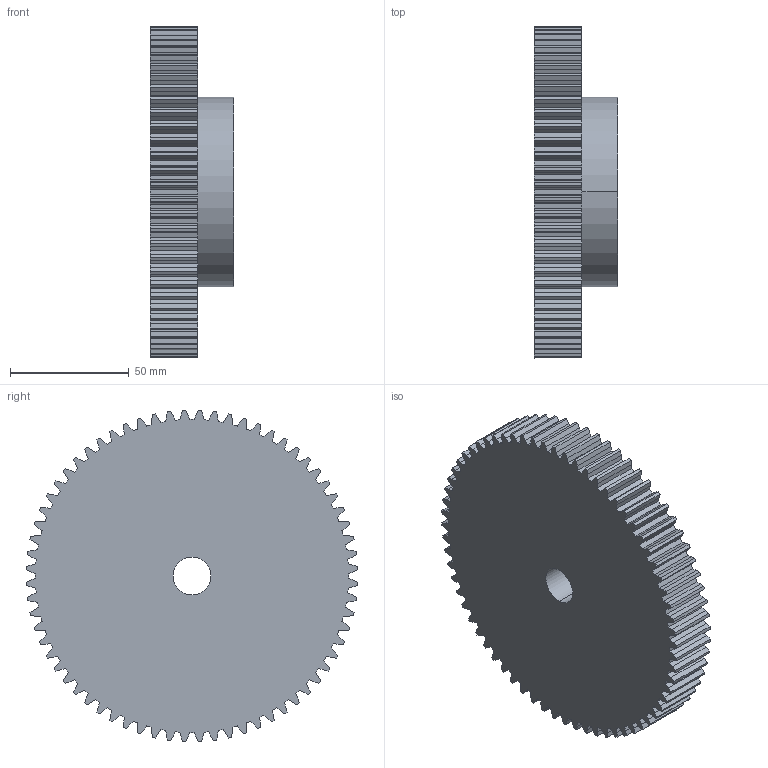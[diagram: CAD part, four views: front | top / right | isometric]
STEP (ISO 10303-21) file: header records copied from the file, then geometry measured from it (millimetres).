
FILE_DESCRIPTION (( 'STEP AP203' ), '1' );
FILE_NAME ('PM 28068.STEP', '2013-09-25T09:07:22', ( '' ), ( '' ), 'SwSTEP 2.0', 'SolidWorks 2010', '' );
FILE_SCHEMA (( 'CONFIG_CONTROL_DESIGN' ));
Length unit declared in the file: millimetre
Products named in the file (1): PM 28068
Bounding box: 35 x 139.91 x 139.91 mm (x, y, z)
Volume: 357025.4 mm3; surface area: 50144 mm2
Topology: 1 solids, 1 shells, 415 faces, 1236 edges, 824 vertices
Faces by surface type: plane 275, cylinder 140
Entity records: 14263 total; most frequent: CARTESIAN_POINT 3679, ORIENTED_EDGE 2472, DIRECTION 1818, EDGE_CURVE 1236, VERTEX_POINT 824, VECTOR 684, LINE 684, AXIS2_PLACEMENT_3D 567
